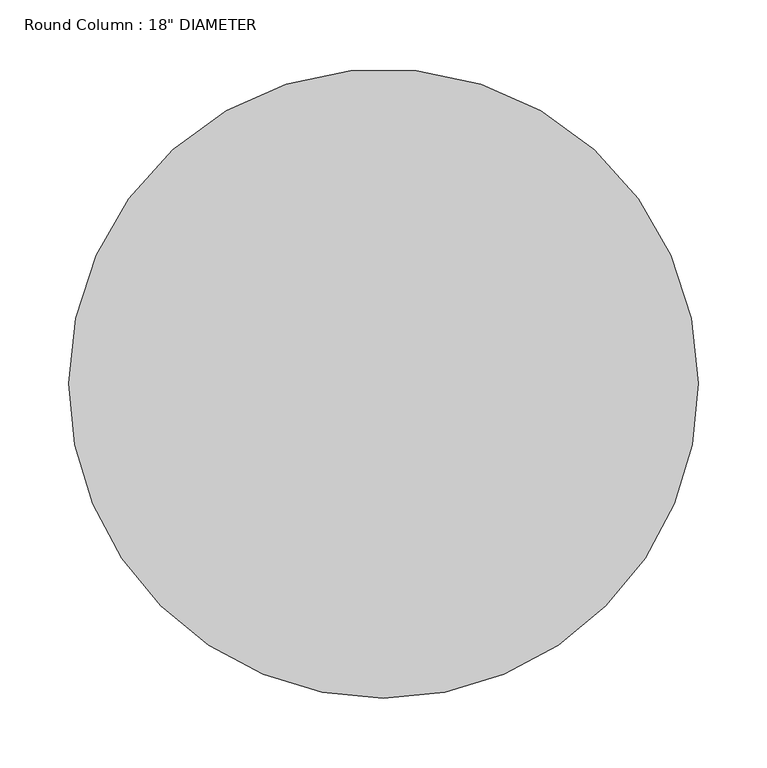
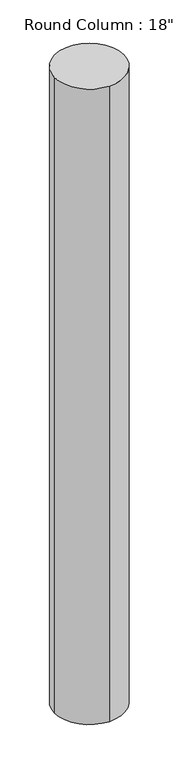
"""IFC4 building model written with IfcOpenShell, lengths in millimetres: column geometry."""

from ifc_helpers import new_model, si_unit, point, frame, origin, origin_2d, place, context, project, spatial, circle_curve, trimmed, segment, composite_curve, outline, extrude, source, transform, mapped, element, save


def column_8929e9b8(model_context):
    return source(origin(), model_context, "Body", "SweptSolid", [
        extrude(outline(composite_curve([segment(trimmed(circle_curve(origin_2d(), 228.6), [point((228.6, 0.0))], [point((0.0, -228.6))], False, "CARTESIAN"), True, "CONTINUOUS"), segment(trimmed(circle_curve(origin_2d(), 228.6), [point((0.0, -228.6))], [point((-228.6, 0.0))], False, "CARTESIAN"), True, "CONTINUOUS"), segment(trimmed(circle_curve(origin_2d(), 228.6), [point((-228.6, 0.0))], [point((228.6, 0.0))], False, "CARTESIAN"), True, "CONTINUOUS")], self_intersect=False)), frame((0.0, 0.0, 290080.7), z_axis=(0.0, 0.0, 1.0), x_axis=(1.0, 0.0, 0.0)), (0.0, 0.0, 1.0), 4432.3),
    ])


if __name__ == "__main__":
    model = new_model("IFC4")
    model_context = context("Model", 3, world=origin())
    ifc_project = project(units=[si_unit("LENGTHUNIT", "METRE", prefix="MILLI")], contexts=[model_context])
    site = spatial("IfcSite", under=ifc_project)
    building = spatial("IfcBuilding", under=site)
    placement = place(None, origin())
    column_shape = column_8929e9b8(model_context)
    element("IfcColumn", 1, ObjectType="Round Column : 18\" DIAMETER", at=placement, inside=building, context=model_context, shape_type="MappedRepresentation", body=[
        mapped(column_shape, transform((0.0, 0.0, 0.0), x_axis=(1.0, 0.0, 0.0), y_axis=(0.0, 1.0, 0.0), z_axis=(0.0, 0.0, 1.0))),
    ])
    save(model, "model.ifc")
